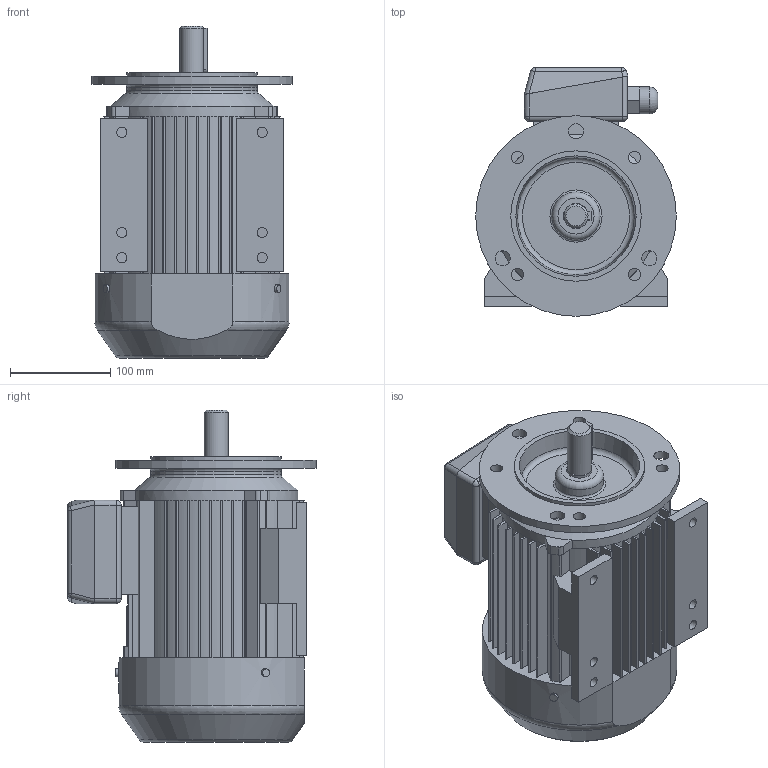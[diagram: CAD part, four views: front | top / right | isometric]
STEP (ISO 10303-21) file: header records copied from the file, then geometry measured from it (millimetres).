
FILE_DESCRIPTION(/* description */ ('Unknown'),/* implementation_level */ '2;1');
FILE_NAME(/* name */ 'Ex 3SIEL90S2,4,6;L2 – 2G,2D,2G&2D – IMB35',/* time_stamp */ '2023-05-11T08:05:30+02:00',/* author */ ('Unknown'),/* organization */ ('Unknown'),/* preprocessor_version */ 'ST-DEVELOPER v16.7',/* originating_system */ 'DEX',/* authorisation */ $);
FILE_SCHEMA (('AUTOMOTIVE_DESIGN {1 0 10303 214 3 1 1}'));
Length unit declared in the file: millimetre
Products named in the file (1): 3SIEL90S2,4,6,L2
Bounding box: 200 x 248 x 331 mm (x, y, z)
Volume: 7290736.3 mm3; surface area: 434195.4 mm2
Topology: 1 solids, 1 shells, 537 faces, 1463 edges, 938 vertices
Faces by surface type: plane 295, cylinder 144, bspline 78, torus 8, sphere 8, cone 4
Full cylindrical faces by diameter (mm): 8 x3, 10 x6, 12 x4, 15 x3, 24 x1, 25 x1, 27 x1, 48 x1, 130 x2, 200 x1
Entity records: 20323 total; most frequent: CARTESIAN_POINT 7187, ORIENTED_EDGE 2806, DIRECTION 2542, EDGE_CURVE 1403, VERTEX_POINT 920, LINE 858, VECTOR 858, AXIS2_PLACEMENT_3D 842
